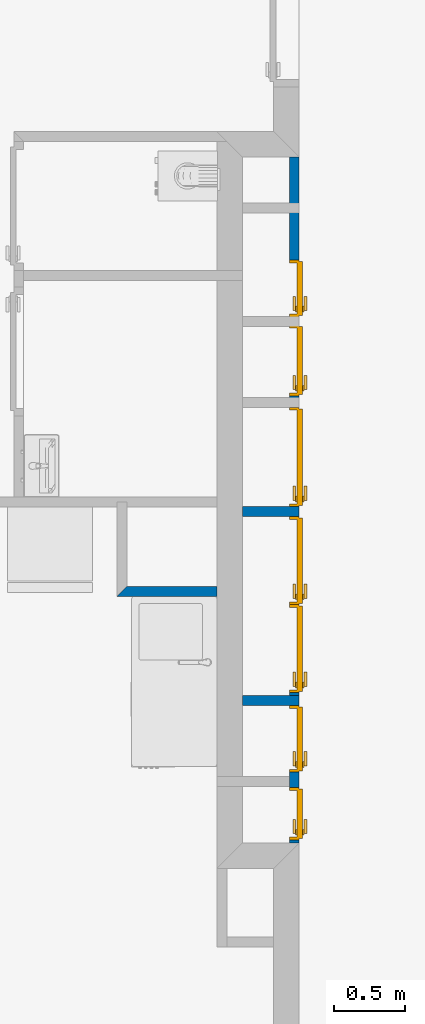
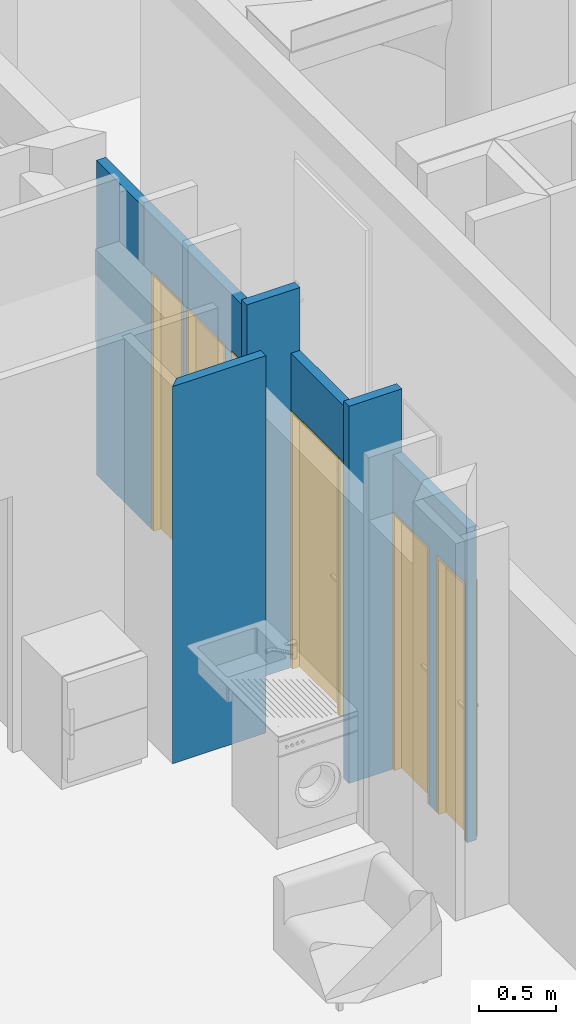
# One storey, part 38 of 171: 7 doors, 4 walls, 7 openings.
"""IFC2X3 building model written with IfcOpenShell, lengths in millimetres."""

from ifc_helpers import new_model, entity, si_unit, converted_unit, derived_unit, money_unit, direction, frame, origin_with_axes, origin_2d_with_axis, place, context, subcontext, project, spatial, polyline, rectangle, outline, extrude, faceted_brep, source, transform, mapped, material, layer, layer_set, layer_usage, type_object, element, fill, save


model = new_model("IFC2X3")

# Units and contexts
model_context = context("Model", 3, precision=0.01, world=origin_with_axes(), true_north=direction((0.0, 1.0)))
body_context = subcontext(model_context, "Body", "Model", "MODEL_VIEW")
ifc_project = project(units=[si_unit("LENGTHUNIT", "METRE", prefix="MILLI"), si_unit("AREAUNIT", "SQUARE_METRE"), si_unit("VOLUMEUNIT", "CUBIC_METRE"), converted_unit("PLANEANGLEUNIT", "DEGREE", entity("IfcPlaneAngleMeasure", 0.0174532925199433), si_unit("PLANEANGLEUNIT", "RADIAN"), dimensions=[0, 0, 0, 0, 0, 0, 0]), money_unit("USD"), converted_unit("TIMEUNIT", "Year", entity("IfcTimeMeasure", 31557600.0), si_unit("TIMEUNIT", "SECOND"), dimensions=[0, 0, 1, 0, 0, 0, 0]), si_unit("MASSUNIT", "GRAM", prefix="KILO"), si_unit("THERMODYNAMICTEMPERATUREUNIT", "DEGREE_CELSIUS"), si_unit("LUMINOUSINTENSITYUNIT", "LUMEN"), si_unit("ENERGYUNIT", "JOULE", prefix="MEGA"), derived_unit("THERMALCONDUCTANCEUNIT", [(si_unit("POWERUNIT", "WATT"), 1), (si_unit("LENGTHUNIT", "METRE"), -1), (si_unit("THERMODYNAMICTEMPERATUREUNIT", "KELVIN"), -1)]), derived_unit("SPECIFICHEATCAPACITYUNIT", [(si_unit("ENERGYUNIT", "JOULE"), 1), (si_unit("MASSUNIT", "GRAM", prefix="KILO"), -1), (si_unit("THERMODYNAMICTEMPERATUREUNIT", "KELVIN"), -1)]), derived_unit("MASSDENSITYUNIT", [(si_unit("MASSUNIT", "GRAM", prefix="KILO"), 1), (si_unit("VOLUMEUNIT", "CUBIC_METRE"), -1)])], contexts=[model_context])

# Site, building, storey
site_placement = place(None, origin_with_axes())
site = spatial("IfcSite", under=ifc_project, at=site_placement, Name="Site", CompositionType="ELEMENT")
building_placement = place(site_placement, origin_with_axes())
building = spatial("IfcBuilding", under=site, at=building_placement, Name="Bâtiment", CompositionType="ELEMENT")
storey_placement = place(building_placement, frame((0.0, 0.0, 3000.0), z_axis=(0.0, 0.0, 1.0), x_axis=(1.0, 0.0, 0.0)))
storey = spatial("IfcBuildingStorey", under=building, at=storey_placement, Name="rdc", CompositionType="ELEMENT", Elevation=3000.0)

# Walls
ifc_material = material(Name="Hachure solide 268963992")
ifc_layer = layer(ifc_material, 70.0, ventilated="UNKNOWN")
ifc_layer_set = layer_set([ifc_layer], Name="Cloison 70 0826278243")
ifc_layer_usage_1 = layer_usage(ifc_layer_set, "AXIS2", "NEGATIVE", 0.0)
wall_type = type_object("IfcWallType", Name="Cloison 70 0826278243 70", PredefinedType="NOTDEFINED")
wall_1_placement = place(storey_placement, frame((2223732.399920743, -639979.3889931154, 0.0), z_axis=(0.0, 0.0, 1.0), x_axis=(1.0, 0.0, 0.0)))
element("IfcWallStandardCase", 1, at=wall_1_placement, inside=storey, type_object=wall_type, material=ifc_layer_usage_1, Name="Mur-121", context=body_context, shape_type="SweptSolid", body=[
    extrude(outline(polyline([(180.0002001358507, -69.99999999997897), (580.0522801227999, -69.99999999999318), (580.0522801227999, 0.0), (180.0002001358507, 0.0), (180.0002001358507, -69.99999999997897)])), origin_with_axes(), (0.0, 0.0, 1.0), 3000.0),
])
ifc_layer_usage_2 = layer_usage(ifc_layer_set, "AXIS2", "NEGATIVE", 0.0)
wall_2_placement = place(storey_placement, frame((2223732.399968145, -638649.3890085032, 0.0), z_axis=(0.0, 0.0, 1.0), x_axis=(1.0, 0.0, 0.0)))
element("IfcWallStandardCase", 2, at=wall_2_placement, inside=storey, type_object=wall_type, material=ifc_layer_usage_2, Name="Mur-121", context=body_context, shape_type="SweptSolid", body=[
    extrude(outline(polyline([(180.0001527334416, -69.99999999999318), (580.0522319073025, -69.99999999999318), (580.0522319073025, 0.0), (180.0001527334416, 0.0), (180.0001527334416, -69.99999999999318)])), origin_with_axes(), (0.0, 0.0, 1.0), 3000.0),
])
ifc_layer_usage_3 = layer_usage(ifc_layer_set, "AXIS2", "NEGATIVE", 70.0)
wall_3_placement = place(storey_placement, frame((2223732.399912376, -639210.3527972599, 0.0), z_axis=(0.0, 0.0, 1.0), x_axis=(-1.0, 0.0, 0.0)))
element("IfcWallStandardCase", 3, at=wall_3_placement, inside=storey, type_object=wall_type, material=ifc_layer_usage_3, Name="Mur-149", context=body_context, shape_type="SweptSolid", body=[
    extrude(outline(polyline([(-0.0002085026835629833, 0.0), (633.2512650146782, 0.0), (703.2512650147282, 69.99999999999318), (-0.0002085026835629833, 69.99999999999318), (-0.0002085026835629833, 0.0)])), origin_with_axes(), (0.0, 0.0, 1.0), 3000.0),
])

# Wall, openings, doors
ifc_layer_usage_4 = layer_usage(ifc_layer_set, "AXIS2", "NEGATIVE", 0.0)
wall_4_placement = place(storey_placement, frame((2224312.400738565, -636187.2995732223, 0.0), z_axis=(0.0, 0.0, 1.0), x_axis=(-2.447479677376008e-07, -0.99999999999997, 0.0)))
wall_4 = element("IfcWallStandardCase", 4, at=wall_4_placement, inside=storey, type_object=wall_type, material=ifc_layer_usage_4, Name="Mur-120", context=body_context, shape_type="SweptSolid", body=[
    extrude(outline(polyline([(0.0, -70.00000000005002), (4829.440244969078, -70.00000000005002), (4829.440402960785, 0.0), (0.0, 0.0), (0.0, -70.00000000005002)])), origin_with_axes(), (0.0, 0.0, 1.0), 2500.0),
])
opening_1_placement = place(wall_4_placement, frame((924.8478023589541, 0.0, 0.0), z_axis=(0.0, 0.0, 1.0), x_axis=(1.0, 0.0, 0.0)))
opening_1 = element("IfcOpeningElement", 5, at=opening_1_placement, cuts=wall_4, Name="Por-202", context=body_context, shape_type="SweptSolid", body=[
    extrude(rectangle(XDim=399.9999999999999, YDim=2050.0, at=origin_2d_with_axis()), frame((0.0, -70.00000000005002, 1025.0), z_axis=(0.0, -1.0, 0.0), x_axis=(-1.0, 0.0, 0.0)), (0.0, 0.0, -1.0), 140.0),
])
opening_2_placement = place(wall_4_placement, frame((2112.089435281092, 0.0, 0.0), z_axis=(0.0, 0.0, 1.0), x_axis=(1.0, 0.0, 0.0)))
opening_2 = element("IfcOpeningElement", 6, at=opening_2_placement, cuts=wall_4, Name="Por-202", context=body_context, shape_type="SweptSolid", body=[
    extrude(rectangle(XDim=700.0, YDim=2050.0, at=origin_2d_with_axis()), frame((0.0, -70.00000000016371, 1025.0), z_axis=(0.0, -1.0, 0.0), x_axis=(-1.0, 0.0, 0.0)), (0.0, 0.0, -1.0), 140.0),
])
opening_3_placement = place(wall_4_placement, frame((2842.089458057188, -1.13686837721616e-10, 0.0), z_axis=(0.0, 0.0, 1.0), x_axis=(1.0, 0.0, 0.0)))
opening_3 = element("IfcOpeningElement", 7, at=opening_3_placement, cuts=wall_4, Name="Por-202", context=body_context, shape_type="SweptSolid", body=[
    extrude(rectangle(XDim=619.9999999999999, YDim=2050.0, at=origin_2d_with_axis()), frame((0.0, -70.00000000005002, 1025.0), z_axis=(0.0, -1.0, 0.0), x_axis=(-1.0, 0.0, 0.0)), (0.0, 0.0, -1.0), 140.0),
])
opening_4_placement = place(wall_4_placement, frame((4097.08944266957, 0.0, 0.0), z_axis=(0.0, 0.0, 1.0), x_axis=(1.0, 0.0, 0.0)))
opening_4 = element("IfcOpeningElement", 8, at=opening_4_placement, cuts=wall_4, Name="Por-202", context=body_context, shape_type="SweptSolid", body=[
    extrude(rectangle(XDim=470.0, YDim=2050.0, at=origin_2d_with_axis()), frame((0.0, -70.00000000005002, 1025.0), z_axis=(0.0, -1.0, 0.0), x_axis=(-1.0, 0.0, 0.0)), (0.0, 0.0, -1.0), 140.0),
])
opening_5_placement = place(wall_4_placement, frame((4624.002569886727, 0.0, 0.0), z_axis=(0.0, 0.0, 1.0), x_axis=(1.0, 0.0, 0.0)))
opening_5 = element("IfcOpeningElement", 9, at=opening_5_placement, cuts=wall_4, Name="Por-202", context=body_context, shape_type="SweptSolid", body=[
    extrude(rectangle(XDim=369.9999999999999, YDim=2050.0, at=origin_2d_with_axis()), frame((0.0, -70.00000000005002, 1025.0), z_axis=(0.0, -1.0, 0.0), x_axis=(-1.0, 0.0, 0.0)), (0.0, 0.0, -1.0), 140.0),
])
opening_6_placement = place(wall_4_placement, frame((1432.092668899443, 0.0, 0.0), z_axis=(0.0, 0.0, 1.0), x_axis=(1.0, 0.0, 0.0)))
opening_6 = element("IfcOpeningElement", 10, at=opening_6_placement, cuts=wall_4, Name="Por-202", context=body_context, shape_type="SweptSolid", body=[
    extrude(rectangle(XDim=499.9999999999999, YDim=2050.0, at=origin_2d_with_axis()), frame((0.0, -70.00000000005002, 1025.0), z_axis=(0.0, -1.0, 0.0), x_axis=(-1.0, 0.0, 0.0)), (0.0, 0.0, -1.0), 140.0),
])
opening_7_placement = place(wall_4_placement, frame((3462.089458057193, 0.0, 0.0), z_axis=(0.0, 0.0, 1.0), x_axis=(1.0, 0.0, 0.0)))
opening_7 = element("IfcOpeningElement", 11, at=opening_7_placement, cuts=wall_4, Name="Por-202", context=body_context, shape_type="SweptSolid", body=[
    extrude(rectangle(XDim=619.9999999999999, YDim=2050.0, at=origin_2d_with_axis()), frame((0.0, -70.00000000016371, 1025.0), z_axis=(0.0, -1.0, 0.0), x_axis=(-1.0, 0.0, 0.0)), (0.0, 0.0, -1.0), 140.0),
])
door_style = type_object("IfcDoorStyle", Name="Porte_1v", ConstructionType="NOTDEFINED", OperationType="NOTDEFINED", ParameterTakesPrecedence=False, Sizeable=False)
shared_shape_1 = source(origin_with_axes(), body_context, "Body", "Brep", [
    faceted_brep([(-200.0, 0.0, 0.0), (-200.0, 0.0, 2050.0), (200.0, 0.0, 2050.0), (200.0, 0.0, 0.0), (190.0, 0.0, 0.0), (190.0, 0.0, 2040.0), (-190.0, 0.0, 2040.0), (-190.0, 0.0, 0.0), (-200.0, -70.0, 0.0), (-200.0, -70.0, 2050.0), (200.0, -70.0, 2050.0), (200.0, -70.0, 0.0), (180.0, -70.0, 0.0), (180.0, -15.0, 0.0), (190.0, -15.0, 0.0), (190.0, -15.0, 2040.0), (-190.0, -15.0, 2040.0), (-190.0, -15.0, 0.0), (-180.0, -15.0, 0.0), (-180.0, -70.0, 0.0), (-180.0, -70.0, 2030.0), (180.0, -70.0, 2030.0), (180.0, -15.0, 2030.0), (-180.0, -15.0, 2030.0)], [[[0, 1, 2, 3, 4, 5, 6, 7]], [[8, 9, 1, 0]], [[9, 10, 2, 1]], [[10, 11, 3, 2]], [[3, 11, 12, 13, 14, 4]], [[5, 4, 14, 15]], [[6, 5, 15, 16]], [[7, 6, 16, 17]], [[0, 7, 17, 18, 19, 8]], [[19, 20, 21, 12, 11, 10, 9, 8]], [[22, 13, 12, 21]], [[17, 16, 15, 14, 13, 22, 23, 18]], [[18, 23, 20, 19]], [[23, 22, 21, 20]]]),
    faceted_brep([(125.0, -15.0, 900.0), (125.0, -15.0, 1100.0), (165.0, -15.0, 1100.0), (165.0, -15.0, 900.0), (125.0, -25.0, 900.0), (125.0, -25.0, 1100.0), (165.0, -25.0, 1100.0), (165.0, -25.0, 900.0)], [[[0, 1, 2, 3]], [[0, 4, 5, 1]], [[1, 5, 6, 2]], [[2, 6, 7, 3]], [[3, 7, 4, 0]], [[7, 6, 5, 4]]]),
    faceted_brep([(54.99999999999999, -25.0, 1000.0), (54.99999999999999, -25.0, 1020.0), (155.0, -25.0, 1020.0), (155.0, -25.0, 1000.0), (54.99999999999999, -45.0, 1000.0), (54.99999999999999, -45.0, 1020.0), (155.0, -45.0, 1020.0), (155.0, -45.0, 1000.0)], [[[0, 1, 2, 3]], [[0, 4, 5, 1]], [[1, 5, 6, 2]], [[2, 6, 7, 3]], [[3, 7, 4, 0]], [[7, 6, 5, 4]]]),
    faceted_brep([(125.0, 35.0, 900.0), (125.0, 35.0, 1100.0), (165.0, 35.0, 1100.0), (165.0, 35.0, 900.0), (125.0, 25.0, 900.0), (125.0, 25.0, 1100.0), (165.0, 25.0, 1100.0), (165.0, 25.0, 900.0)], [[[0, 1, 2, 3]], [[0, 4, 5, 1]], [[1, 5, 6, 2]], [[2, 6, 7, 3]], [[3, 7, 4, 0]], [[7, 6, 5, 4]]]),
    faceted_brep([(54.99999999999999, 55.00000000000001, 1000.0), (54.99999999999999, 55.00000000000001, 1020.0), (155.0, 55.00000000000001, 1020.0), (155.0, 55.00000000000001, 1000.0), (54.99999999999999, 35.0, 1000.0), (54.99999999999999, 35.0, 1020.0), (155.0, 35.0, 1020.0), (155.0, 35.0, 1000.0)], [[[0, 1, 2, 3]], [[0, 4, 5, 1]], [[1, 5, 6, 2]], [[2, 6, 7, 3]], [[3, 7, 4, 0]], [[7, 6, 5, 4]]]),
    faceted_brep([(190.0, 25.0, 0.0), (190.0, -15.0, 0.0), (-190.0, -15.0, 0.0), (-190.0, 25.0, 0.0), (190.0, 25.0, 2040.0), (190.0, -15.0, 2040.0), (-190.0, -15.0, 2040.0), (-190.0, 25.0, 2040.0)], [[[0, 1, 2, 3]], [[4, 5, 1, 0]], [[1, 5, 6, 2]], [[3, 2, 6, 7]], [[0, 3, 7, 4]], [[7, 6, 5, 4]]]),
])
door_1_placement = place(opening_1_placement, frame((-190.0000000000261, 0.0, 0.0), z_axis=(0.0, 0.0, 1.0), x_axis=(1.0, 0.0, 0.0)))
door_1 = element("IfcDoor", 12, at=door_1_placement, inside=storey, type_object=door_style, Name="Por-202", OverallHeight=2040.0, OverallWidth=380.0, context=body_context, shape_type="MappedRepresentation", body=[
    mapped(shared_shape_1, transform((189.9999999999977, 0.0, 0.0))),
])
fill(opening_1, door_1)
shared_shape_2 = source(origin_with_axes(), body_context, "Body", "Brep", [
    faceted_brep([(-310.0, 0.0, 0.0), (-310.0, 0.0, 2050.0), (310.0, 0.0, 2050.0), (310.0, 0.0, 0.0), (300.0, 0.0, 0.0), (300.0, 0.0, 2040.0), (-300.0, 0.0, 2040.0), (-300.0, 0.0, 0.0), (-310.0, -70.0, 0.0), (-310.0, -70.0, 2050.0), (310.0, -70.0, 2050.0), (310.0, -70.0, 0.0), (290.0, -70.0, 0.0), (290.0, -15.0, 0.0), (300.0, -15.0, 0.0), (300.0, -15.0, 2040.0), (-300.0, -15.0, 2040.0), (-300.0, -15.0, 0.0), (-290.0, -15.0, 0.0), (-290.0, -70.0, 0.0), (-290.0, -70.0, 2030.0), (290.0, -70.0, 2030.0), (290.0, -15.0, 2030.0), (-290.0, -15.0, 2030.0)], [[[0, 1, 2, 3, 4, 5, 6, 7]], [[8, 9, 1, 0]], [[9, 10, 2, 1]], [[10, 11, 3, 2]], [[3, 11, 12, 13, 14, 4]], [[5, 4, 14, 15]], [[6, 5, 15, 16]], [[7, 6, 16, 17]], [[0, 7, 17, 18, 19, 8]], [[19, 20, 21, 12, 11, 10, 9, 8]], [[22, 13, 12, 21]], [[17, 16, 15, 14, 13, 22, 23, 18]], [[18, 23, 20, 19]], [[23, 22, 21, 20]]]),
    faceted_brep([(235.0, -15.0, 900.0), (235.0, -15.0, 1100.0), (274.9999999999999, -15.0, 1100.0), (274.9999999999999, -15.0, 900.0), (235.0, -25.0, 900.0), (235.0, -25.0, 1100.0), (274.9999999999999, -25.0, 1100.0), (274.9999999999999, -25.0, 900.0)], [[[0, 1, 2, 3]], [[0, 4, 5, 1]], [[1, 5, 6, 2]], [[2, 6, 7, 3]], [[3, 7, 4, 0]], [[7, 6, 5, 4]]]),
    faceted_brep([(164.9999999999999, -25.0, 1000.0), (164.9999999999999, -25.0, 1020.0), (264.9999999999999, -25.0, 1020.0), (264.9999999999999, -25.0, 1000.0), (164.9999999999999, -45.0, 1000.0), (164.9999999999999, -45.0, 1020.0), (264.9999999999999, -45.0, 1020.0), (264.9999999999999, -45.0, 1000.0)], [[[0, 1, 2, 3]], [[0, 4, 5, 1]], [[1, 5, 6, 2]], [[2, 6, 7, 3]], [[3, 7, 4, 0]], [[7, 6, 5, 4]]]),
    faceted_brep([(235.0, 35.0, 900.0), (235.0, 35.0, 1100.0), (274.9999999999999, 35.0, 1100.0), (274.9999999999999, 35.0, 900.0), (235.0, 25.0, 900.0), (235.0, 25.0, 1100.0), (274.9999999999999, 25.0, 1100.0), (274.9999999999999, 25.0, 900.0)], [[[0, 1, 2, 3]], [[0, 4, 5, 1]], [[1, 5, 6, 2]], [[2, 6, 7, 3]], [[3, 7, 4, 0]], [[7, 6, 5, 4]]]),
    faceted_brep([(164.9999999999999, 55.00000000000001, 1000.0), (164.9999999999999, 55.00000000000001, 1020.0), (264.9999999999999, 55.00000000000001, 1020.0), (264.9999999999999, 55.00000000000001, 1000.0), (164.9999999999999, 35.0, 1000.0), (164.9999999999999, 35.0, 1020.0), (264.9999999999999, 35.0, 1020.0), (264.9999999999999, 35.0, 1000.0)], [[[0, 1, 2, 3]], [[0, 4, 5, 1]], [[1, 5, 6, 2]], [[2, 6, 7, 3]], [[3, 7, 4, 0]], [[7, 6, 5, 4]]]),
    faceted_brep([(300.0, 25.0, 0.0), (300.0, -15.0, 0.0), (-300.0, -15.0, 0.0), (-300.0, 25.0, 0.0), (300.0, 25.0, 2040.0), (300.0, -15.0, 2040.0), (-300.0, -15.0, 2040.0), (-300.0, 25.0, 2040.0)], [[[0, 1, 2, 3]], [[4, 5, 1, 0]], [[1, 5, 6, 2]], [[3, 2, 6, 7]], [[0, 3, 7, 4]], [[7, 6, 5, 4]]]),
])
door_2_placement = place(opening_3_placement, frame((-300.0000000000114, 1.13686837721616e-10, 0.0), z_axis=(0.0, 0.0, 1.0), x_axis=(1.0, 0.0, 0.0)))
door_2 = element("IfcDoor", 13, at=door_2_placement, inside=storey, type_object=door_style, Name="Por-202", OverallHeight=2040.0, OverallWidth=600.0, context=body_context, shape_type="MappedRepresentation", body=[
    mapped(shared_shape_2, transform((300.0000000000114, -1.13686837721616e-10, 0.0))),
])
fill(opening_3, door_2)
door_3_placement = place(opening_7_placement, frame((-300.0000000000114, 0.0, 0.0), z_axis=(0.0, 0.0, 1.0), x_axis=(1.0, 0.0, 0.0)))
door_3 = element("IfcDoor", 14, at=door_3_placement, inside=storey, type_object=door_style, Name="Por-202", OverallHeight=2040.0, OverallWidth=600.0, context=body_context, shape_type="MappedRepresentation", body=[
    mapped(shared_shape_2, transform((299.9999999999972, 0.0, 0.0))),
])
fill(opening_7, door_3)
shared_shape_3 = source(origin_with_axes(), body_context, "Body", "Brep", [
    faceted_brep([(-350.0000000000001, 0.0, 0.0), (-350.0000000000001, 0.0, 2050.0), (350.0000000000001, 0.0, 2050.0), (350.0000000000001, 0.0, 0.0), (340.0, 0.0, 0.0), (340.0, 0.0, 2040.0), (-340.0, 0.0, 2040.0), (-340.0, 0.0, 0.0), (-350.0000000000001, -70.0, 0.0), (-350.0000000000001, -70.0, 2050.0), (350.0000000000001, -70.0, 2050.0), (350.0000000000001, -70.0, 0.0), (330.0, -70.0, 0.0), (330.0, -15.0, 0.0), (340.0, -15.0, 0.0), (340.0, -15.0, 2040.0), (-340.0, -15.0, 2040.0), (-340.0, -15.0, 0.0), (-330.0, -15.0, 0.0), (-330.0, -70.0, 0.0), (-330.0, -70.0, 2030.0), (330.0, -70.0, 2030.0), (330.0, -15.0, 2030.0), (-330.0, -15.0, 2030.0)], [[[0, 1, 2, 3, 4, 5, 6, 7]], [[8, 9, 1, 0]], [[9, 10, 2, 1]], [[10, 11, 3, 2]], [[3, 11, 12, 13, 14, 4]], [[5, 4, 14, 15]], [[6, 5, 15, 16]], [[7, 6, 16, 17]], [[0, 7, 17, 18, 19, 8]], [[19, 20, 21, 12, 11, 10, 9, 8]], [[22, 13, 12, 21]], [[17, 16, 15, 14, 13, 22, 23, 18]], [[18, 23, 20, 19]], [[23, 22, 21, 20]]]),
    faceted_brep([(275.0, -15.0, 900.0), (275.0, -15.0, 1100.0), (315.0, -15.0, 1100.0), (315.0, -15.0, 900.0), (275.0, -25.0, 900.0), (275.0, -25.0, 1100.0), (315.0, -25.0, 1100.0), (315.0, -25.0, 900.0)], [[[0, 1, 2, 3]], [[0, 4, 5, 1]], [[1, 5, 6, 2]], [[2, 6, 7, 3]], [[3, 7, 4, 0]], [[7, 6, 5, 4]]]),
    faceted_brep([(205.0, -25.0, 1000.0), (205.0, -25.0, 1020.0), (305.0, -25.0, 1020.0), (305.0, -25.0, 1000.0), (205.0, -45.0, 1000.0), (205.0, -45.0, 1020.0), (305.0, -45.0, 1020.0), (305.0, -45.0, 1000.0)], [[[0, 1, 2, 3]], [[0, 4, 5, 1]], [[1, 5, 6, 2]], [[2, 6, 7, 3]], [[3, 7, 4, 0]], [[7, 6, 5, 4]]]),
    faceted_brep([(275.0, 35.0, 900.0), (275.0, 35.0, 1100.0), (315.0, 35.0, 1100.0), (315.0, 35.0, 900.0), (275.0, 25.0, 900.0), (275.0, 25.0, 1100.0), (315.0, 25.0, 1100.0), (315.0, 25.0, 900.0)], [[[0, 1, 2, 3]], [[0, 4, 5, 1]], [[1, 5, 6, 2]], [[2, 6, 7, 3]], [[3, 7, 4, 0]], [[7, 6, 5, 4]]]),
    faceted_brep([(205.0, 55.00000000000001, 1000.0), (205.0, 55.00000000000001, 1020.0), (305.0, 55.00000000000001, 1020.0), (305.0, 55.00000000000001, 1000.0), (205.0, 35.0, 1000.0), (205.0, 35.0, 1020.0), (305.0, 35.0, 1020.0), (305.0, 35.0, 1000.0)], [[[0, 1, 2, 3]], [[0, 4, 5, 1]], [[1, 5, 6, 2]], [[2, 6, 7, 3]], [[3, 7, 4, 0]], [[7, 6, 5, 4]]]),
    faceted_brep([(340.0, 25.0, 0.0), (340.0, -15.0, 0.0), (-340.0, -15.0, 0.0), (-340.0, 25.0, 0.0), (340.0, 25.0, 2040.0), (340.0, -15.0, 2040.0), (-340.0, -15.0, 2040.0), (-340.0, 25.0, 2040.0)], [[[0, 1, 2, 3]], [[4, 5, 1, 0]], [[1, 5, 6, 2]], [[3, 2, 6, 7]], [[0, 3, 7, 4]], [[7, 6, 5, 4]]]),
])
door_4_placement = place(opening_2_placement, frame((-340.000000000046, -1.13686837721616e-10, 0.0), z_axis=(0.0, 0.0, 1.0), x_axis=(1.0, 0.0, 0.0)))
door_4 = element("IfcDoor", 15, at=door_4_placement, inside=storey, type_object=door_style, Name="Por-202", OverallHeight=2040.0, OverallWidth=680.0, context=body_context, shape_type="MappedRepresentation", body=[
    mapped(shared_shape_3, transform((340.0000000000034, 0.0, 0.0))),
])
fill(opening_2, door_4)
shared_shape_4 = source(origin_with_axes(), body_context, "Body", "Brep", [
    faceted_brep([(-250.0, 0.0, 0.0), (-250.0, 0.0, 2050.0), (250.0, 0.0, 2050.0), (250.0, 0.0, 0.0), (240.0, 0.0, 0.0), (240.0, 0.0, 2040.0), (-240.0, 0.0, 2040.0), (-240.0, 0.0, 0.0), (-250.0, -70.0, 0.0), (-250.0, -70.0, 2050.0), (250.0, -70.0, 2050.0), (250.0, -70.0, 0.0), (230.0, -70.0, 0.0), (230.0, -15.0, 0.0), (240.0, -15.0, 0.0), (240.0, -15.0, 2040.0), (-240.0, -15.0, 2040.0), (-240.0, -15.0, 0.0), (-230.0, -15.0, 0.0), (-230.0, -70.0, 0.0), (-230.0, -70.0, 2030.0), (230.0, -70.0, 2030.0), (230.0, -15.0, 2030.0), (-230.0, -15.0, 2030.0)], [[[0, 1, 2, 3, 4, 5, 6, 7]], [[8, 9, 1, 0]], [[9, 10, 2, 1]], [[10, 11, 3, 2]], [[3, 11, 12, 13, 14, 4]], [[5, 4, 14, 15]], [[6, 5, 15, 16]], [[7, 6, 16, 17]], [[0, 7, 17, 18, 19, 8]], [[19, 20, 21, 12, 11, 10, 9, 8]], [[22, 13, 12, 21]], [[17, 16, 15, 14, 13, 22, 23, 18]], [[18, 23, 20, 19]], [[23, 22, 21, 20]]]),
    faceted_brep([(175.0, -15.0, 900.0), (175.0, -15.0, 1100.0), (215.0, -15.0, 1100.0), (215.0, -15.0, 900.0), (175.0, -25.0, 900.0), (175.0, -25.0, 1100.0), (215.0, -25.0, 1100.0), (215.0, -25.0, 900.0)], [[[0, 1, 2, 3]], [[0, 4, 5, 1]], [[1, 5, 6, 2]], [[2, 6, 7, 3]], [[3, 7, 4, 0]], [[7, 6, 5, 4]]]),
    faceted_brep([(105.0, -25.0, 1000.0), (105.0, -25.0, 1020.0), (205.0, -25.0, 1020.0), (205.0, -25.0, 1000.0), (105.0, -45.0, 1000.0), (105.0, -45.0, 1020.0), (205.0, -45.0, 1020.0), (205.0, -45.0, 1000.0)], [[[0, 1, 2, 3]], [[0, 4, 5, 1]], [[1, 5, 6, 2]], [[2, 6, 7, 3]], [[3, 7, 4, 0]], [[7, 6, 5, 4]]]),
    faceted_brep([(175.0, 35.0, 900.0), (175.0, 35.0, 1100.0), (215.0, 35.0, 1100.0), (215.0, 35.0, 900.0), (175.0, 25.0, 900.0), (175.0, 25.0, 1100.0), (215.0, 25.0, 1100.0), (215.0, 25.0, 900.0)], [[[0, 1, 2, 3]], [[0, 4, 5, 1]], [[1, 5, 6, 2]], [[2, 6, 7, 3]], [[3, 7, 4, 0]], [[7, 6, 5, 4]]]),
    faceted_brep([(105.0, 55.00000000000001, 1000.0), (105.0, 55.00000000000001, 1020.0), (205.0, 55.00000000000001, 1020.0), (205.0, 55.00000000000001, 1000.0), (105.0, 35.0, 1000.0), (105.0, 35.0, 1020.0), (205.0, 35.0, 1020.0), (205.0, 35.0, 1000.0)], [[[0, 1, 2, 3]], [[0, 4, 5, 1]], [[1, 5, 6, 2]], [[2, 6, 7, 3]], [[3, 7, 4, 0]], [[7, 6, 5, 4]]]),
    faceted_brep([(240.0, 25.0, 0.0), (240.0, -15.0, 0.0), (-240.0, -15.0, 0.0), (-240.0, 25.0, 0.0), (240.0, 25.0, 2040.0), (240.0, -15.0, 2040.0), (-240.0, -15.0, 2040.0), (-240.0, 25.0, 2040.0)], [[[0, 1, 2, 3]], [[4, 5, 1, 0]], [[1, 5, 6, 2]], [[3, 2, 6, 7]], [[0, 3, 7, 4]], [[7, 6, 5, 4]]]),
])
door_5_placement = place(opening_6_placement, frame((-239.9999999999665, 2.273736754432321e-10, 0.0), z_axis=(0.0, 0.0, 1.0), x_axis=(1.0, 0.0, 0.0)))
door_5 = element("IfcDoor", 16, at=door_5_placement, inside=storey, type_object=door_style, Name="Por-202", OverallHeight=2040.0, OverallWidth=480.0, context=body_context, shape_type="MappedRepresentation", body=[
    mapped(shared_shape_4, transform((239.9999999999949, 0.0, 0.0))),
])
fill(opening_6, door_5)
shared_shape_5 = source(origin_with_axes(), body_context, "Body", "Brep", [
    faceted_brep([(-235.0, 0.0, 0.0), (-235.0, 0.0, 2050.0), (235.0, 0.0, 2050.0), (235.0, 0.0, 0.0), (225.0, 0.0, 0.0), (225.0, 0.0, 2040.0), (-225.0, 0.0, 2040.0), (-225.0, 0.0, 0.0), (-235.0, -70.0, 0.0), (-235.0, -70.0, 2050.0), (235.0, -70.0, 2050.0), (235.0, -70.0, 0.0), (215.0, -70.0, 0.0), (215.0, -15.0, 0.0), (225.0, -15.0, 0.0), (225.0, -15.0, 2040.0), (-225.0, -15.0, 2040.0), (-225.0, -15.0, 0.0), (-215.0, -15.0, 0.0), (-215.0, -70.0, 0.0), (-215.0, -70.0, 2030.0), (215.0, -70.0, 2030.0), (215.0, -15.0, 2030.0), (-215.0, -15.0, 2030.0)], [[[0, 1, 2, 3, 4, 5, 6, 7]], [[8, 9, 1, 0]], [[9, 10, 2, 1]], [[10, 11, 3, 2]], [[3, 11, 12, 13, 14, 4]], [[5, 4, 14, 15]], [[6, 5, 15, 16]], [[7, 6, 16, 17]], [[0, 7, 17, 18, 19, 8]], [[19, 20, 21, 12, 11, 10, 9, 8]], [[22, 13, 12, 21]], [[17, 16, 15, 14, 13, 22, 23, 18]], [[18, 23, 20, 19]], [[23, 22, 21, 20]]]),
    faceted_brep([(160.0, -15.0, 900.0), (160.0, -15.0, 1100.0), (200.0, -15.0, 1100.0), (200.0, -15.0, 900.0), (160.0, -25.0, 900.0), (160.0, -25.0, 1100.0), (200.0, -25.0, 1100.0), (200.0, -25.0, 900.0)], [[[0, 1, 2, 3]], [[0, 4, 5, 1]], [[1, 5, 6, 2]], [[2, 6, 7, 3]], [[3, 7, 4, 0]], [[7, 6, 5, 4]]]),
    faceted_brep([(90.0, -25.0, 1000.0), (90.0, -25.0, 1020.0), (190.0, -25.0, 1020.0), (190.0, -25.0, 1000.0), (90.0, -45.0, 1000.0), (90.0, -45.0, 1020.0), (190.0, -45.0, 1020.0), (190.0, -45.0, 1000.0)], [[[0, 1, 2, 3]], [[0, 4, 5, 1]], [[1, 5, 6, 2]], [[2, 6, 7, 3]], [[3, 7, 4, 0]], [[7, 6, 5, 4]]]),
    faceted_brep([(160.0, 35.0, 900.0), (160.0, 35.0, 1100.0), (200.0, 35.0, 1100.0), (200.0, 35.0, 900.0), (160.0, 25.0, 900.0), (160.0, 25.0, 1100.0), (200.0, 25.0, 1100.0), (200.0, 25.0, 900.0)], [[[0, 1, 2, 3]], [[0, 4, 5, 1]], [[1, 5, 6, 2]], [[2, 6, 7, 3]], [[3, 7, 4, 0]], [[7, 6, 5, 4]]]),
    faceted_brep([(90.0, 55.00000000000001, 1000.0), (90.0, 55.00000000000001, 1020.0), (190.0, 55.00000000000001, 1020.0), (190.0, 55.00000000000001, 1000.0), (90.0, 35.0, 1000.0), (90.0, 35.0, 1020.0), (190.0, 35.0, 1020.0), (190.0, 35.0, 1000.0)], [[[0, 1, 2, 3]], [[0, 4, 5, 1]], [[1, 5, 6, 2]], [[2, 6, 7, 3]], [[3, 7, 4, 0]], [[7, 6, 5, 4]]]),
    faceted_brep([(225.0, 25.0, 0.0), (225.0, -15.0, 0.0), (-225.0, -15.0, 0.0), (-225.0, 25.0, 0.0), (225.0, 25.0, 2040.0), (225.0, -15.0, 2040.0), (-225.0, -15.0, 2040.0), (-225.0, 25.0, 2040.0)], [[[0, 1, 2, 3]], [[4, 5, 1, 0]], [[1, 5, 6, 2]], [[3, 2, 6, 7]], [[0, 3, 7, 4]], [[7, 6, 5, 4]]]),
])
door_6_placement = place(opening_4_placement, frame((-225.0000000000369, 0.0, 0.0), z_axis=(0.0, 0.0, 1.0), x_axis=(1.0, 0.0, 0.0)))
door_6 = element("IfcDoor", 17, at=door_6_placement, inside=storey, type_object=door_style, Name="Por-202", OverallHeight=2040.0, OverallWidth=450.0, context=body_context, shape_type="MappedRepresentation", body=[
    mapped(shared_shape_5, transform((225.0000000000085, 0.0, 0.0))),
])
fill(opening_4, door_6)
shared_shape_6 = source(origin_with_axes(), body_context, "Body", "Brep", [
    faceted_brep([(-185.0, 0.0, 0.0), (-185.0, 0.0, 2050.0), (185.0, 0.0, 2050.0), (185.0, 0.0, 0.0), (175.0, 0.0, 0.0), (175.0, 0.0, 2040.0), (-175.0, 0.0, 2040.0), (-175.0, 0.0, 0.0), (-185.0, -70.0, 0.0), (-185.0, -70.0, 2050.0), (185.0, -70.0, 2050.0), (185.0, -70.0, 0.0), (165.0, -70.0, 0.0), (165.0, -15.0, 0.0), (175.0, -15.0, 0.0), (175.0, -15.0, 2040.0), (-175.0, -15.0, 2040.0), (-175.0, -15.0, 0.0), (-165.0, -15.0, 0.0), (-165.0, -70.0, 0.0), (-165.0, -70.0, 2030.0), (165.0, -70.0, 2030.0), (165.0, -15.0, 2030.0), (-165.0, -15.0, 2030.0)], [[[0, 1, 2, 3, 4, 5, 6, 7]], [[8, 9, 1, 0]], [[9, 10, 2, 1]], [[10, 11, 3, 2]], [[3, 11, 12, 13, 14, 4]], [[5, 4, 14, 15]], [[6, 5, 15, 16]], [[7, 6, 16, 17]], [[0, 7, 17, 18, 19, 8]], [[19, 20, 21, 12, 11, 10, 9, 8]], [[22, 13, 12, 21]], [[17, 16, 15, 14, 13, 22, 23, 18]], [[18, 23, 20, 19]], [[23, 22, 21, 20]]]),
    faceted_brep([(110.0, -15.0, 900.0), (110.0, -15.0, 1100.0), (150.0, -15.0, 1100.0), (150.0, -15.0, 900.0), (110.0, -25.0, 900.0), (110.0, -25.0, 1100.0), (150.0, -25.0, 1100.0), (150.0, -25.0, 900.0)], [[[0, 1, 2, 3]], [[0, 4, 5, 1]], [[1, 5, 6, 2]], [[2, 6, 7, 3]], [[3, 7, 4, 0]], [[7, 6, 5, 4]]]),
    faceted_brep([(39.99999999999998, -25.0, 1000.0), (39.99999999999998, -25.0, 1020.0), (140.0, -25.0, 1020.0), (140.0, -25.0, 1000.0), (39.99999999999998, -45.0, 1000.0), (39.99999999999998, -45.0, 1020.0), (140.0, -45.0, 1020.0), (140.0, -45.0, 1000.0)], [[[0, 1, 2, 3]], [[0, 4, 5, 1]], [[1, 5, 6, 2]], [[2, 6, 7, 3]], [[3, 7, 4, 0]], [[7, 6, 5, 4]]]),
    faceted_brep([(110.0, 35.0, 900.0), (110.0, 35.0, 1100.0), (150.0, 35.0, 1100.0), (150.0, 35.0, 900.0), (110.0, 25.0, 900.0), (110.0, 25.0, 1100.0), (150.0, 25.0, 1100.0), (150.0, 25.0, 900.0)], [[[0, 1, 2, 3]], [[0, 4, 5, 1]], [[1, 5, 6, 2]], [[2, 6, 7, 3]], [[3, 7, 4, 0]], [[7, 6, 5, 4]]]),
    faceted_brep([(39.99999999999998, 55.00000000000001, 1000.0), (39.99999999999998, 55.00000000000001, 1020.0), (140.0, 55.00000000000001, 1020.0), (140.0, 55.00000000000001, 1000.0), (39.99999999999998, 35.0, 1000.0), (39.99999999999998, 35.0, 1020.0), (140.0, 35.0, 1020.0), (140.0, 35.0, 1000.0)], [[[0, 1, 2, 3]], [[0, 4, 5, 1]], [[1, 5, 6, 2]], [[2, 6, 7, 3]], [[3, 7, 4, 0]], [[7, 6, 5, 4]]]),
    faceted_brep([(175.0, 25.0, 0.0), (175.0, -15.0, 0.0), (-175.0, -15.0, 0.0), (-175.0, 25.0, 0.0), (175.0, 25.0, 2040.0), (175.0, -15.0, 2040.0), (-175.0, -15.0, 2040.0), (-175.0, 25.0, 2040.0)], [[[0, 1, 2, 3]], [[4, 5, 1, 0]], [[1, 5, 6, 2]], [[3, 2, 6, 7]], [[0, 3, 7, 4]], [[7, 6, 5, 4]]]),
])
door_7_placement = place(opening_5_placement, frame((-174.9999999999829, 1.13686837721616e-10, 0.0), z_axis=(0.0, 0.0, 1.0), x_axis=(1.0, 0.0, 0.0)))
door_7 = element("IfcDoor", 18, at=door_7_placement, inside=storey, type_object=door_style, Name="Por-202", OverallHeight=2040.0, OverallWidth=350.0, context=body_context, shape_type="MappedRepresentation", body=[
    mapped(shared_shape_6, transform((175.0000000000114, -1.13686837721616e-10, 0.0))),
])
fill(opening_5, door_7)

save(model, "model.ifc")
